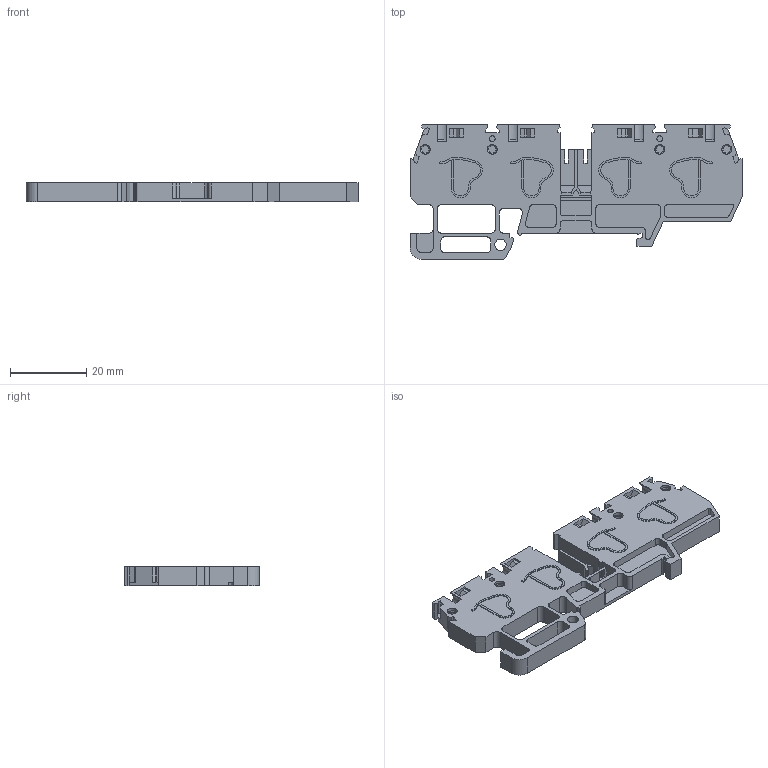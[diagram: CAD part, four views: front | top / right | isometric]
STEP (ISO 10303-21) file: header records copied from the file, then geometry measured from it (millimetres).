
FILE_DESCRIPTION (( 'STEP AP214' ), '1' );
FILE_NAME ('42414_EURO QM 2-2_2.5_35.STEP', '2021-03-26T09:53:32', ( '' ), ( '' ), 'SwSTEP 2.0', 'SolidWorks 2020', '' );
FILE_SCHEMA (( 'AUTOMOTIVE_DESIGN' ));
Length unit declared in the file: millimetre
Products named in the file (1): 42414_EURO QM 2-2_2.5_35
Bounding box: 87.2 x 35.4 x 5.2 mm (x, y, z)
Volume: 8287.6 mm3; surface area: 8772.6 mm2
Topology: 1 solids, 1 shells, 555 faces, 1545 edges, 1022 vertices
Faces by surface type: plane 368, cylinder 155, bspline 24, cone 8
Entity records: 18473 total; most frequent: CARTESIAN_POINT 4033, ORIENTED_EDGE 3090, DIRECTION 2889, EDGE_CURVE 1545, VECTOR 1141, LINE 1141, VERTEX_POINT 1022, AXIS2_PLACEMENT_3D 874
